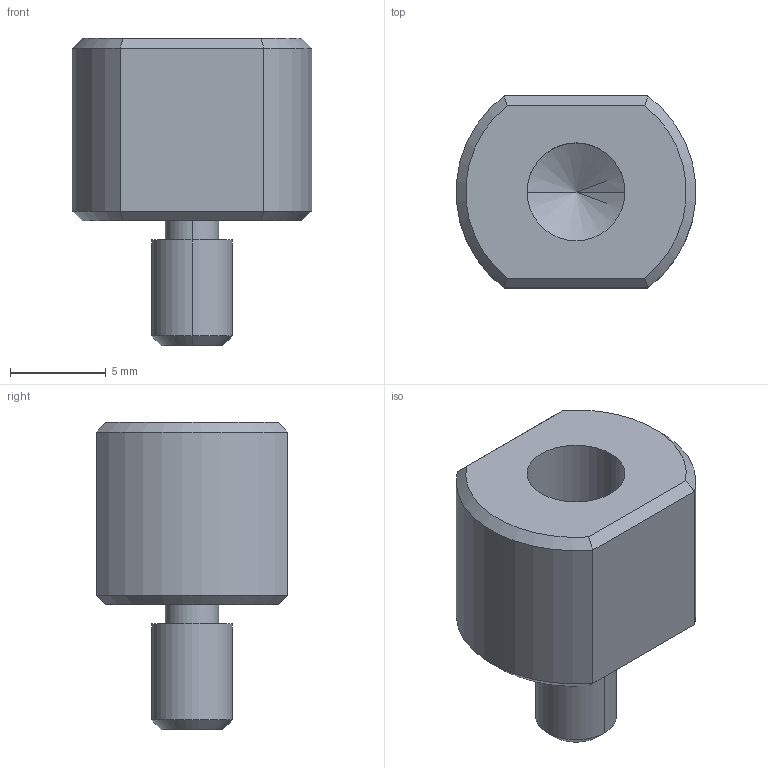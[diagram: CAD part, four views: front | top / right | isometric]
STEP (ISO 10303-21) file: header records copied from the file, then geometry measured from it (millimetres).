
FILE_DESCRIPTION (( 'STEP AP203' ), '1' );
FILE_NAME ('TAIE25E8.STEP', '2022-01-27T02:35:16', ( '' ), ( '' ), 'SwSTEP 2.0', 'SolidWorks 2019', '' );
FILE_SCHEMA (( 'CONFIG_CONTROL_DESIGN' ));
Length unit declared in the file: millimetre
Products named in the file (1): TAIE25E8
Bounding box: 12.46 x 10 x 16 mm (x, y, z)
Volume: 962.3 mm3; surface area: 767.9 mm2
Topology: 1 solids, 1 shells, 26 faces, 54 edges, 31 vertices
Faces by surface type: plane 10, cylinder 8, cone 8
Entity records: 755 total; most frequent: CARTESIAN_POINT 134, DIRECTION 120, ORIENTED_EDGE 104, EDGE_CURVE 52, AXIS2_PLACEMENT_3D 49, VERTEX_POINT 31, EDGE_LOOP 29, ADVANCED_FACE 26
